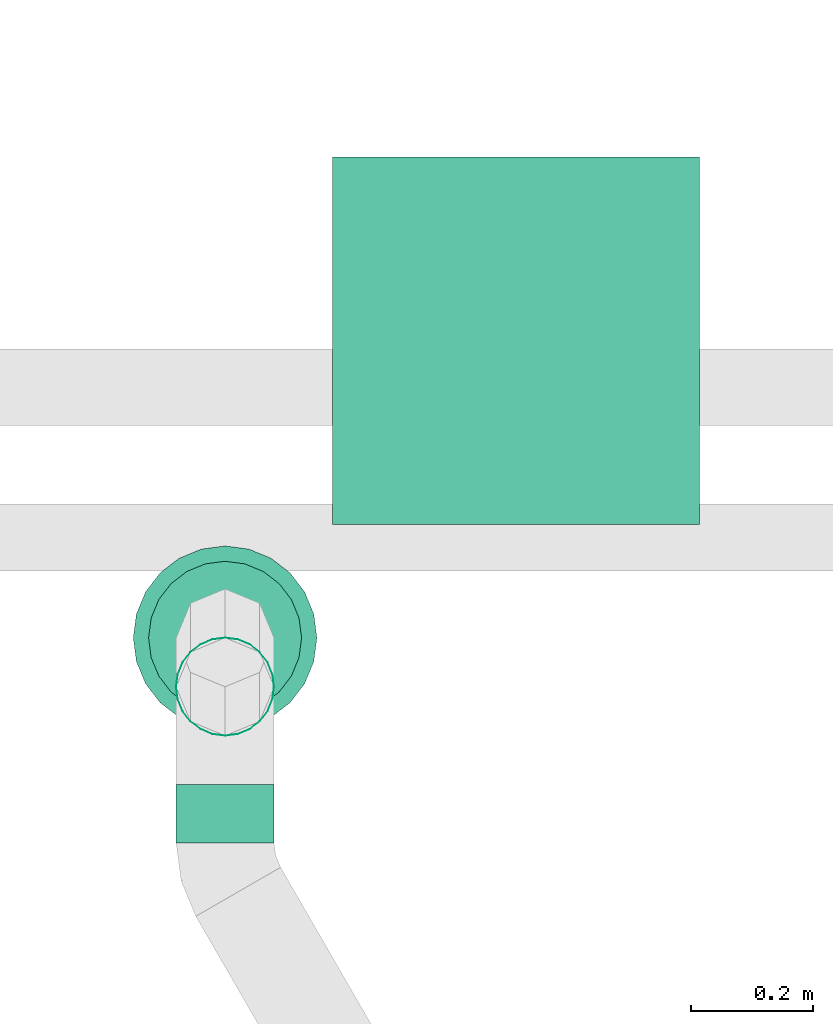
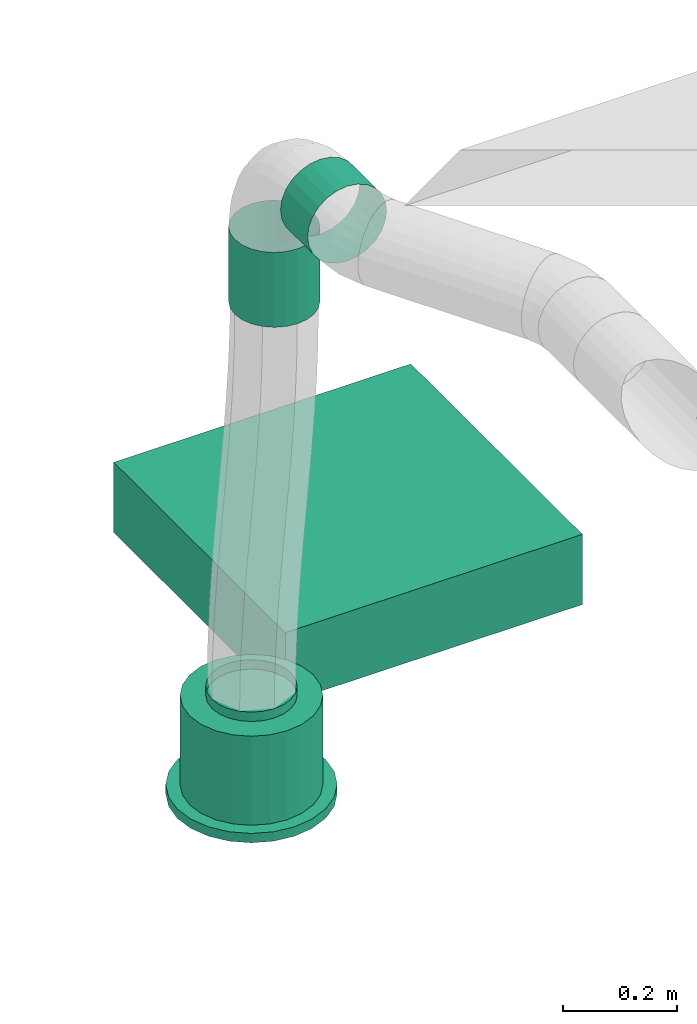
# One storey, part 159 of 374: 2 flow segments, 1 distribution element, 1 flow terminal.
"""IFC2X3 building model written with IfcOpenShell, lengths in metres."""

from ifc_helpers import new_model, si_unit, direction, frame, frame_2d, origin, place, context, subcontext, project, spatial, rectangle, extrude, open_shell, surface_model, source, transform, mapped, element, save


model = new_model("IFC2X3")

# Units and contexts
model_context = context("Model", 3, precision=1e-05, world=origin(), true_north=direction((-0.4480736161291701, 0.8939966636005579)))
body_context = subcontext(model_context, "Body", "Model", "MODEL_VIEW")
ifc_project = project(units=[si_unit("LENGTHUNIT", "METRE"), si_unit("AREAUNIT", "SQUARE_METRE"), si_unit("VOLUMEUNIT", "CUBIC_METRE"), si_unit("PLANEANGLEUNIT", "RADIAN"), si_unit("THERMODYNAMICTEMPERATUREUNIT", "KELVIN"), si_unit("MASSUNIT", "GRAM", prefix="KILO"), si_unit("TIMEUNIT", "SECOND")], contexts=[model_context])

# Site, building, storey
site_placement = place(None, origin())
site = spatial("IfcSite", under=ifc_project, at=site_placement, Name="Site 1", CompositionType="ELEMENT")
building_placement = place(site_placement, origin())
building = spatial("IfcBuilding", under=site, at=building_placement, Name="Undefined", CompositionType="ELEMENT")
storey_placement = place(building_placement, origin())
storey = spatial("IfcBuildingStorey", under=building, at=storey_placement, Name="Rez de chauss\x8ee", CompositionType="ELEMENT", Elevation=0.0)

# Flow terminal
shared_shape_1 = source(origin(), body_context, "Body", "SurfaceModel", [
    surface_model("IfcFaceBasedSurfaceModel", [(0.0, 0.0, 0.0), (0.03915785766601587, 0.0, 0.0), (0.03915785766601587, 0.020000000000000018, 0.0), (3.552713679e-15, 0.020000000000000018, 0.0), (0.07698144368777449, 0.0, -0.010134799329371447), (0.07698144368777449, 0.020000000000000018, -0.010134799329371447), (0.11089314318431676, 0.0, -0.02971372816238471), (0.11089314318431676, 0.020000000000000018, -0.02971372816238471), (0.13858192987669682, 0.0, -0.05740251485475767), (0.13858192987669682, 0.020000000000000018, -0.05740251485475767), (0.15816085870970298, 0.0, -0.09131421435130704), (0.15816085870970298, 0.020000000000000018, -0.09131421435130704), (0.16829565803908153, 0.0, -0.12913780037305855), (0.16829565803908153, 0.020000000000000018, -0.12913780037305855), (0.16829565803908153, 0.0, -0.16829565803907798), (0.16829565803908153, 0.020000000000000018, -0.16829565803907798), (0.15816085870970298, 0.0, -0.20611924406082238), (0.15816085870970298, 0.020000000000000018, -0.20611924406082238), (0.13858192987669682, 0.0, -0.24003094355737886), (0.13858192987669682, 0.020000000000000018, -0.24003094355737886), (0.11089314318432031, 0.0, -0.2677197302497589), (0.11089314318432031, 0.020000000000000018, -0.2677197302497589), (0.07698144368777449, 0.0, -0.2872986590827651), (0.07698144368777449, 0.020000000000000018, -0.2872986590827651), (0.039157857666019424, 0.0, -0.29743345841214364), (0.039157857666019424, 0.020000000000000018, -0.29743345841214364), (3.552713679e-15, 0.0, -0.29743345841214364), (3.552713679e-15, 0.020000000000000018, -0.29743345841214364), (-0.03782358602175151, 0.0, -0.2872986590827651), (-0.03782358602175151, 0.020000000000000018, -0.2872986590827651), (-0.07173528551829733, 0.0, -0.2677197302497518), (-0.07173528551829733, 0.020000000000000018, -0.2677197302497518), (-0.0994240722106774, 0.0, -0.24003094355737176), (-0.0994240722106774, 0.020000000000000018, -0.24003094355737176), (-0.11900300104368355, 0.0, -0.2061192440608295), (-0.11900300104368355, 0.020000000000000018, -0.2061192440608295), (-0.1291378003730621, 0.0, -0.16829565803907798), (-0.1291378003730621, 0.020000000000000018, -0.16829565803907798), (-0.1291378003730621, 0.0, -0.12913780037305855), (-0.1291378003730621, 0.020000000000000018, -0.12913780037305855), (-0.11900300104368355, 0.0, -0.09131421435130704), (-0.11900300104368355, 0.020000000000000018, -0.09131421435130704), (-0.0994240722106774, 0.0, -0.05740251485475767), (-0.0994240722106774, 0.020000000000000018, -0.05740251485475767), (-0.07173528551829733, 0.0, -0.029713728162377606), (-0.07173528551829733, 0.020000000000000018, -0.029713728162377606), (-0.03782358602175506, 0.0, -0.010134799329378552), (-0.03782358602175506, 0.020000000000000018, -0.010134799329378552), (0.019578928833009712, 0.0, -0.14871672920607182), (0.019578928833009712, 0.020000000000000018, -0.14871672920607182), (0.003263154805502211, 0.020000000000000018, -0.02478612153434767), (0.035894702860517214, 0.020000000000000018, -0.02478612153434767), (0.035894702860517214, 0.20999999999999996, -0.02478612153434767), (0.003263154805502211, 0.20999999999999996, -0.02478612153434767), (0.06741435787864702, 0.020000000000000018, -0.033231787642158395), (0.06741435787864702, 0.20999999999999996, -0.033231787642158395), (0.0956741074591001, 0.020000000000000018, -0.04954756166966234), (0.0956741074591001, 0.20999999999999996, -0.04954756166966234), (0.11874809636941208, 0.020000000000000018, -0.07262155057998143), (0.11874809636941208, 0.20999999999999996, -0.07262155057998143), (0.13506387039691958, 0.020000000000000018, -0.10088130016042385), (0.13506387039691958, 0.20999999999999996, -0.10088130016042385), (0.1435095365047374, 0.020000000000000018, -0.13240095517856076), (0.1435095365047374, 0.20999999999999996, -0.13240095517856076), (0.1435095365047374, 0.020000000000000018, -0.16503250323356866), (0.1435095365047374, 0.20999999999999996, -0.16503250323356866), (0.13506387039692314, 0.020000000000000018, -0.19655215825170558), (0.13506387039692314, 0.20999999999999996, -0.19655215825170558), (0.11874809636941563, 0.020000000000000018, -0.2248119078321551), (0.11874809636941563, 0.20999999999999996, -0.2248119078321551), (0.09567410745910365, 0.020000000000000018, -0.24788589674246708), (0.09567410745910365, 0.20999999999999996, -0.24788589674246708), (0.06741435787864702, 0.020000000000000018, -0.26420167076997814), (0.06741435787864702, 0.20999999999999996, -0.26420167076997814), (0.035894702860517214, 0.020000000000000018, -0.27264733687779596), (0.035894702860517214, 0.20999999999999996, -0.27264733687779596), (0.0032631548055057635, 0.020000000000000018, -0.27264733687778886), (0.0032631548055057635, 0.20999999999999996, -0.27264733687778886), (-0.028256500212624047, 0.020000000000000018, -0.26420167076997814), (-0.028256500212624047, 0.20999999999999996, -0.26420167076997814), (-0.05651624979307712, 0.020000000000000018, -0.2478858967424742), (-0.05651624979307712, 0.20999999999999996, -0.2478858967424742), (-0.07959023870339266, 0.020000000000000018, -0.2248119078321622), (-0.07959023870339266, 0.20999999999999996, -0.2248119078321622), (-0.09590601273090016, 0.020000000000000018, -0.19655215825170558), (-0.09590601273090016, 0.20999999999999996, -0.19655215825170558), (-0.10435167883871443, 0.020000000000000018, -0.16503250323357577), (-0.10435167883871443, 0.20999999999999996, -0.16503250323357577), (-0.10435167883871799, 0.020000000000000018, -0.13240095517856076), (-0.10435167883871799, 0.20999999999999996, -0.13240095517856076), (-0.09590601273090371, 0.020000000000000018, -0.10088130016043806), (-0.09590601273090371, 0.20999999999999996, -0.10088130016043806), (-0.07959023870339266, 0.020000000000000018, -0.07262155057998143), (-0.07959023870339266, 0.20999999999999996, -0.07262155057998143), (-0.056516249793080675, 0.020000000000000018, -0.04954756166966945), (-0.056516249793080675, 0.20999999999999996, -0.04954756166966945), (-0.028256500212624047, 0.020000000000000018, -0.033231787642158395), (-0.028256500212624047, 0.20999999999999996, -0.033231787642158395), (0.019578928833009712, 0.20999999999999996, -0.14871672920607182), (0.009136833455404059, 0.20999999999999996, -0.06940114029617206), (0.030021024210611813, 0.20999999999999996, -0.06940114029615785), (0.030021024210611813, 0.22999999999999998, -0.06940114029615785), (0.009136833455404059, 0.22999999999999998, -0.06940114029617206), (0.05019360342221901, 0.20999999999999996, -0.07480636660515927), (0.05019360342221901, 0.22999999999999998, -0.07480636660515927), (0.06827984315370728, 0.20999999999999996, -0.08524846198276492), (0.06827984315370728, 0.22999999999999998, -0.08524846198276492), (0.0830471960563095, 0.20999999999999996, -0.10001581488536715), (0.0830471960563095, 0.22999999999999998, -0.10001581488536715), (0.0934892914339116, 0.20999999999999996, -0.11810205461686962), (0.0934892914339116, 0.22999999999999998, -0.11810205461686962), (0.09889451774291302, 0.20999999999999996, -0.13827463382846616), (0.09889451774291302, 0.22999999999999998, -0.13827463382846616), (0.09889451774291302, 0.20999999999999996, -0.15915882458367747), (0.09889451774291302, 0.22999999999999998, -0.15915882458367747), (0.09348929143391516, 0.20999999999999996, -0.179331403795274), (0.09348929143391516, 0.22999999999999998, -0.179331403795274), (0.0830471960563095, 0.20999999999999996, -0.19741764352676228), (0.0830471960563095, 0.22999999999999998, -0.19741764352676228), (0.06827984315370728, 0.20999999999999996, -0.2121849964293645), (0.06827984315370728, 0.22999999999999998, -0.2121849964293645), (0.05019360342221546, 0.20999999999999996, -0.22262709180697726), (0.05019360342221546, 0.22999999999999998, -0.22262709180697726), (0.030021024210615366, 0.20999999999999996, -0.22803231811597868), (0.030021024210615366, 0.22999999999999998, -0.22803231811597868), (0.009136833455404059, 0.20999999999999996, -0.22803231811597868), (0.009136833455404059, 0.22999999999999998, -0.22803231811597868), (-0.011035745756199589, 0.20999999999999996, -0.22262709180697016), (-0.011035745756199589, 0.22999999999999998, -0.22262709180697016), (-0.0291219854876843, 0.20999999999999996, -0.2121849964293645), (-0.0291219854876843, 0.22999999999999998, -0.2121849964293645), (-0.043889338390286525, 0.20999999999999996, -0.19741764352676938), (-0.043889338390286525, 0.22999999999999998, -0.19741764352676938), (-0.05433143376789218, 0.20999999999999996, -0.17933140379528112), (-0.05433143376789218, 0.22999999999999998, -0.17933140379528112), (-0.05973666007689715, 0.20999999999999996, -0.15915882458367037), (-0.05973666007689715, 0.22999999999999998, -0.15915882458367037), (-0.0597366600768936, 0.20999999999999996, -0.13827463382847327), (-0.0597366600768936, 0.22999999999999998, -0.13827463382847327), (-0.05433143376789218, 0.20999999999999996, -0.11810205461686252), (-0.05433143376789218, 0.22999999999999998, -0.11810205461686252), (-0.043889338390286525, 0.20999999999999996, -0.10001581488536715), (-0.043889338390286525, 0.22999999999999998, -0.10001581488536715), (-0.02912198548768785, 0.20999999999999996, -0.08524846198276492), (-0.02912198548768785, 0.22999999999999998, -0.08524846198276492), (-0.011035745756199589, 0.20999999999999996, -0.07480636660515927), (-0.011035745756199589, 0.22999999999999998, -0.07480636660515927)], [open_shell([[[0, 1, 2, 3]], [[1, 4, 5, 2]], [[4, 6, 7, 5]], [[6, 8, 9, 7]], [[8, 10, 11, 9]], [[10, 12, 13, 11]], [[12, 14, 15, 13]], [[14, 16, 17, 15]], [[16, 18, 19, 17]], [[18, 20, 21, 19]], [[20, 22, 23, 21]], [[22, 24, 25, 23]], [[24, 26, 27, 25]], [[26, 28, 29, 27]], [[28, 30, 31, 29]], [[30, 32, 33, 31]], [[32, 34, 35, 33]], [[34, 36, 37, 35]], [[36, 38, 39, 37]], [[38, 40, 41, 39]], [[40, 42, 43, 41]], [[42, 44, 45, 43]], [[44, 46, 47, 45]], [[46, 0, 3, 47]], [[48, 1, 0]], [[48, 4, 1]], [[48, 6, 4]], [[48, 8, 6]], [[48, 10, 8]], [[48, 12, 10]], [[48, 14, 12]], [[48, 16, 14]], [[48, 18, 16]], [[48, 20, 18]], [[48, 22, 20]], [[48, 24, 22]], [[48, 26, 24]], [[48, 28, 26]], [[48, 30, 28]], [[48, 32, 30]], [[48, 34, 32]], [[48, 36, 34]], [[48, 38, 36]], [[48, 40, 38]], [[48, 42, 40]], [[48, 44, 42]], [[48, 46, 44]], [[48, 0, 46]], [[49, 47, 3]], [[49, 45, 47]], [[49, 43, 45]], [[49, 41, 43]], [[49, 39, 41]], [[49, 37, 39]], [[49, 35, 37]], [[49, 33, 35]], [[49, 31, 33]], [[49, 29, 31]], [[49, 27, 29]], [[49, 25, 27]], [[49, 23, 25]], [[49, 21, 23]], [[49, 19, 21]], [[49, 17, 19]], [[49, 15, 17]], [[49, 13, 15]], [[49, 11, 13]], [[49, 9, 11]], [[49, 7, 9]], [[49, 5, 7]], [[49, 2, 5]], [[49, 3, 2]], [[50, 51, 52, 53]], [[51, 54, 55, 52]], [[54, 56, 57, 55]], [[56, 58, 59, 57]], [[58, 60, 61, 59]], [[60, 62, 63, 61]], [[62, 64, 65, 63]], [[64, 66, 67, 65]], [[66, 68, 69, 67]], [[68, 70, 71, 69]], [[70, 72, 73, 71]], [[72, 74, 75, 73]], [[74, 76, 77, 75]], [[76, 78, 79, 77]], [[78, 80, 81, 79]], [[80, 82, 83, 81]], [[82, 84, 85, 83]], [[84, 86, 87, 85]], [[86, 88, 89, 87]], [[88, 90, 91, 89]], [[90, 92, 93, 91]], [[92, 94, 95, 93]], [[94, 96, 97, 95]], [[96, 50, 53, 97]], [[49, 51, 50]], [[49, 54, 51]], [[49, 56, 54]], [[49, 58, 56]], [[49, 60, 58]], [[49, 62, 60]], [[49, 64, 62]], [[49, 66, 64]], [[49, 68, 66]], [[49, 70, 68]], [[49, 72, 70]], [[49, 74, 72]], [[49, 76, 74]], [[49, 78, 76]], [[49, 80, 78]], [[49, 82, 80]], [[49, 84, 82]], [[49, 86, 84]], [[49, 88, 86]], [[49, 90, 88]], [[49, 92, 90]], [[49, 94, 92]], [[49, 96, 94]], [[49, 50, 96]], [[98, 97, 53]], [[98, 95, 97]], [[98, 93, 95]], [[98, 91, 93]], [[98, 89, 91]], [[98, 87, 89]], [[98, 85, 87]], [[98, 83, 85]], [[98, 81, 83]], [[98, 79, 81]], [[98, 77, 79]], [[98, 75, 77]], [[98, 73, 75]], [[98, 71, 73]], [[98, 69, 71]], [[98, 67, 69]], [[98, 65, 67]], [[98, 63, 65]], [[98, 61, 63]], [[98, 59, 61]], [[98, 57, 59]], [[98, 55, 57]], [[98, 52, 55]], [[98, 53, 52]], [[99, 100, 101, 102]], [[100, 103, 104, 101]], [[103, 105, 106, 104]], [[105, 107, 108, 106]], [[107, 109, 110, 108]], [[109, 111, 112, 110]], [[111, 113, 114, 112]], [[113, 115, 116, 114]], [[115, 117, 118, 116]], [[117, 119, 120, 118]], [[119, 121, 122, 120]], [[121, 123, 124, 122]], [[123, 125, 126, 124]], [[125, 127, 128, 126]], [[127, 129, 130, 128]], [[129, 131, 132, 130]], [[131, 133, 134, 132]], [[133, 135, 136, 134]], [[135, 137, 138, 136]], [[137, 139, 140, 138]], [[139, 141, 142, 140]], [[141, 143, 144, 142]], [[143, 145, 146, 144]], [[145, 99, 102, 146]]])]),
])
flow_terminal_placement = place(storey_placement, origin())
element("IfcFlowTerminal", 1, at=flow_terminal_placement, inside=storey, Name="Air diffuseur - bouche", ObjectType="Air diffuseur - bouche", context=body_context, shape_type="MappedRepresentation", body=[
    mapped(shared_shape_1, transform((48.29270755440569, 16.802295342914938, 2.38), x_axis=(0.9914448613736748, 0.13052619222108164, 0.0), y_axis=(0.0, 0.0, 1.0), z_axis=(0.13052619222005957, -0.9914448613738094, 0.0))),
])

# Flow segments
shared_shape_2 = source(origin(), body_context, "Body", "SurfaceModel", [
    surface_model("IfcFaceBasedSurfaceModel", [(0.0, 0.020884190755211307, 0.0), (0.0, 0.0, 0.0), (0.09500000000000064, -7.105427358e-15, 0.0), (0.09499999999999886, 0.020884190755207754, 0.0), (0.0, -0.020172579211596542, -0.005405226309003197), (0.09499999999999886, -0.020172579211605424, -0.005405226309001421), (0.0, -0.03825881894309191, -0.015847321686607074), (0.09499999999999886, -0.03825881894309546, -0.015847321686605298), (0.0, -0.05302617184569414, -0.0306146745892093), (0.09499999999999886, -0.05302617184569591, -0.030614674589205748), (0.0, -0.06346826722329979, -0.04870091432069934), (0.09499999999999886, -0.06346826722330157, -0.048700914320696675), (0.0, -0.06887349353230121, -0.06887349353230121), (0.09499999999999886, -0.06887349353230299, -0.06887349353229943), (0.0, -0.06887349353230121, -0.08975768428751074), (0.09499999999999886, -0.06887349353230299, -0.08975768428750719), (0.0, -0.06346826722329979, -0.10993026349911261), (0.09499999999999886, -0.06346826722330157, -0.10993026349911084), (0.0, -0.05302617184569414, -0.12801650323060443), (0.09499999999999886, -0.05302617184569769, -0.12801650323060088), (0.0, -0.038258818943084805, -0.14278385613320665), (0.09499999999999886, -0.03825881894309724, -0.1427838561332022), (0.0, -0.020172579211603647, -0.15322595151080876), (0.09499999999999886, -0.0201725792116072, -0.15322595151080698), (0.0, 7.105427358e-15, -0.15863117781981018), (0.09499999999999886, -3.552713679e-15, -0.1586311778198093), (0.0, 0.020884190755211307, -0.15863117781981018), (0.09499999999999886, 0.0208841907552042, -0.1586311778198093), (0.0, 0.04105676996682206, -0.15322595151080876), (0.09499999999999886, 0.04105676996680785, -0.15322595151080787), (0.0, 0.05914300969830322, -0.1427838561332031), (0.09499999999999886, 0.059143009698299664, -0.142783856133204), (0.0, 0.07391036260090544, -0.12801650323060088), (0.09499999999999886, 0.07391036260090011, -0.12801650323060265), (0.0, 0.0843524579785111, -0.10993026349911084), (0.09499999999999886, 0.08435245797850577, -0.10993026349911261), (0.0, 0.08975768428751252, -0.08975768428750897), (0.09499999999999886, 0.08975768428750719, -0.08975768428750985), (0.0, 0.08975768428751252, -0.06887349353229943), (0.09499999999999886, 0.08975768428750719, -0.06887349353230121), (0.0, 0.0843524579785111, -0.048700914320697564), (0.09499999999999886, 0.08435245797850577, -0.04870091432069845), (0.0, 0.07391036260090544, -0.030614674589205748), (0.09499999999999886, 0.07391036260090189, -0.030614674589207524), (0.0, 0.05914300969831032, -0.015847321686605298), (0.09499999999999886, 0.059143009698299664, -0.015847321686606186), (0.0, 0.04105676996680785, -0.005405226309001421), (0.09499999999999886, 0.041056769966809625, -0.005405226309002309)], [open_shell([[[0, 1, 2, 3]], [[1, 4, 5, 2]], [[4, 6, 7, 5]], [[6, 8, 9, 7]], [[8, 10, 11, 9]], [[10, 12, 13, 11]], [[12, 14, 15, 13]], [[14, 16, 17, 15]], [[16, 18, 19, 17]], [[18, 20, 21, 19]], [[20, 22, 23, 21]], [[22, 24, 25, 23]], [[24, 26, 27, 25]], [[26, 28, 29, 27]], [[28, 30, 31, 29]], [[30, 32, 33, 31]], [[32, 34, 35, 33]], [[34, 36, 37, 35]], [[36, 38, 39, 37]], [[38, 40, 41, 39]], [[40, 42, 43, 41]], [[42, 44, 45, 43]], [[44, 46, 47, 45]], [[46, 0, 3, 47]]])]),
])
flow_segment_1_placement = place(storey_placement, origin())
element("IfcFlowSegment", 2, at=flow_segment_1_placement, inside=storey, Name="Manchon", ObjectType="Manchon", context=body_context, shape_type="MappedRepresentation", body=[
    mapped(shared_shape_2, transform((48.27200203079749, 16.71229534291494, 3.877274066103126), x_axis=(0.0, -1.0, 0.0), y_axis=(0.9914448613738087, 0.0, 0.13052619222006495), z_axis=(-0.13052619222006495, 0.0, 0.9914448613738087))),
])
shared_shape_3 = source(origin(), body_context, "Body", "SurfaceModel", [
    surface_model("IfcFaceBasedSurfaceModel", [(0.0, 0.020884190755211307, 0.0), (0.0, 0.0, 0.0), (0.16000000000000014, 0.0, -4.4408921e-16), (0.16000000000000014, 0.0208841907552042, -4.4408921e-16), (0.0, -0.020172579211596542, -0.005405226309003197), (0.16000000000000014, -0.020172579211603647, -0.005405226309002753), (0.0, -0.03825881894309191, -0.015847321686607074), (0.16000000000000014, -0.03825881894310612, -0.015847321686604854), (0.0, -0.05302617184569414, -0.0306146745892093), (0.16000000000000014, -0.05302617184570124, -0.03061467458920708), (0.0, -0.06346826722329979, -0.04870091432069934), (0.16000000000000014, -0.0634682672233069, -0.04870091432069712), (0.0, -0.06887349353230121, -0.06887349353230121), (0.16000000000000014, -0.06887349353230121, -0.06887349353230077), (0.0, -0.06887349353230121, -0.08975768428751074), (0.16000000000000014, -0.06887349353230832, -0.08975768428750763), (0.0, -0.06346826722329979, -0.10993026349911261), (0.16000000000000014, -0.0634682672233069, -0.10993026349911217), (0.0, -0.05302617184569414, -0.12801650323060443), (0.16000000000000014, -0.05302617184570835, -0.1280165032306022), (0.0, -0.038258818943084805, -0.14278385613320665), (0.16000000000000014, -0.03825881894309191, -0.14278385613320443), (0.0, -0.020172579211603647, -0.15322595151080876), (0.16000000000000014, -0.020172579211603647, -0.1532259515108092), (0.0, 7.105427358e-15, -0.15863117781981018), (0.16000000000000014, -7.105427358e-15, -0.15863117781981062), (0.0, 0.020884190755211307, -0.15863117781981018), (0.16000000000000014, 0.0208841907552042, -0.15863117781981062), (0.0, 0.04105676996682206, -0.15322595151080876), (0.16000000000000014, 0.04105676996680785, -0.1532259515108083), (0.0, 0.05914300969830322, -0.1427838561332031), (0.16000000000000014, 0.05914300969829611, -0.14278385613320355), (0.0, 0.07391036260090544, -0.12801650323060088), (0.16000000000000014, 0.07391036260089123, -0.1280165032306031), (0.0, 0.0843524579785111, -0.10993026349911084), (0.16000000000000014, 0.08435245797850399, -0.10993026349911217), (0.0, 0.08975768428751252, -0.08975768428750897), (0.16000000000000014, 0.08975768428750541, -0.08975768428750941), (0.0, 0.08975768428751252, -0.06887349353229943), (0.16000000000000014, 0.08975768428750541, -0.06887349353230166), (0.0, 0.0843524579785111, -0.048700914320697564), (0.16000000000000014, 0.08435245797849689, -0.04870091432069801), (0.0, 0.07391036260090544, -0.030614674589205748), (0.16000000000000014, 0.07391036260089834, -0.03061467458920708), (0.0, 0.05914300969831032, -0.015847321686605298), (0.16000000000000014, 0.05914300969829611, -0.01584732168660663), (0.0, 0.04105676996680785, -0.005405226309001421), (0.16000000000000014, 0.04105676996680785, -0.005405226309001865)], [open_shell([[[0, 1, 2, 3]], [[1, 4, 5, 2]], [[4, 6, 7, 5]], [[6, 8, 9, 7]], [[8, 10, 11, 9]], [[10, 12, 13, 11]], [[12, 14, 15, 13]], [[14, 16, 17, 15]], [[16, 18, 19, 17]], [[18, 20, 21, 19]], [[20, 22, 23, 21]], [[22, 24, 25, 23]], [[24, 26, 27, 25]], [[26, 28, 29, 27]], [[28, 30, 31, 29]], [[30, 32, 33, 31]], [[32, 34, 35, 33]], [[34, 36, 37, 35]], [[36, 38, 39, 37]], [[38, 40, 41, 39]], [[40, 42, 43, 41]], [[42, 44, 45, 43]], [[44, 46, 47, 45]], [[46, 0, 3, 47]]])]),
])
flow_segment_2_placement = place(storey_placement, origin())
element("IfcFlowSegment", 3, at=flow_segment_2_placement, inside=storey, Name="Tube", ObjectType="Tube", context=body_context, shape_type="MappedRepresentation", body=[
    mapped(shared_shape_3, transform((48.31341307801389, 16.795021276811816, 3.4800000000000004), x_axis=(0.0, 0.0, 1.0), y_axis=(-0.9914448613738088, -0.13052619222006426, 0.0), z_axis=(0.13052619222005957, -0.9914448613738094, 0.0))),
])

# Distribution element
distribution_element_placement = place(storey_placement, origin())
element("IfcDistributionElement", 4, at=distribution_element_placement, inside=storey, Name="Decken-Rechteckleuchte mit Rahmen AP", ObjectType="Decken-Rechteckleuchte mit Rahmen AP", context=body_context, shape_type="SweptSolid", body=[
    extrude(rectangle(XDim=0.6000000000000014, YDim=0.6000000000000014, at=frame_2d((3.552713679e-15, 0.0), x_axis=(0.0, 1.0))), frame((48.76792114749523, 17.437499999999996, 2.5500000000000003), z_axis=(0.0, 0.0, -1.0), x_axis=(1.0, 0.0, 0.0)), (0.0, 0.0, 1.0), 0.15),
])

save(model, "model.ifc")
